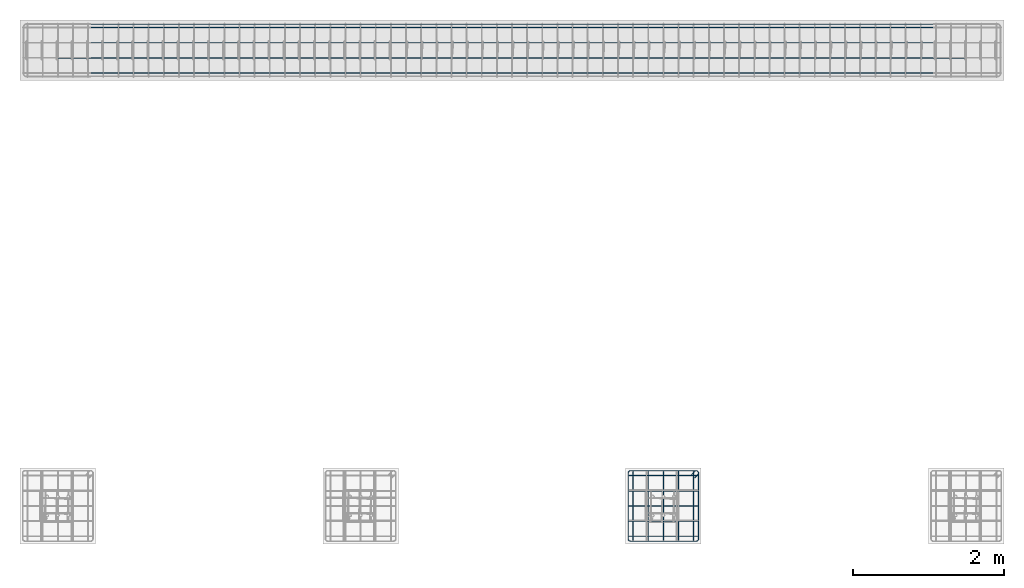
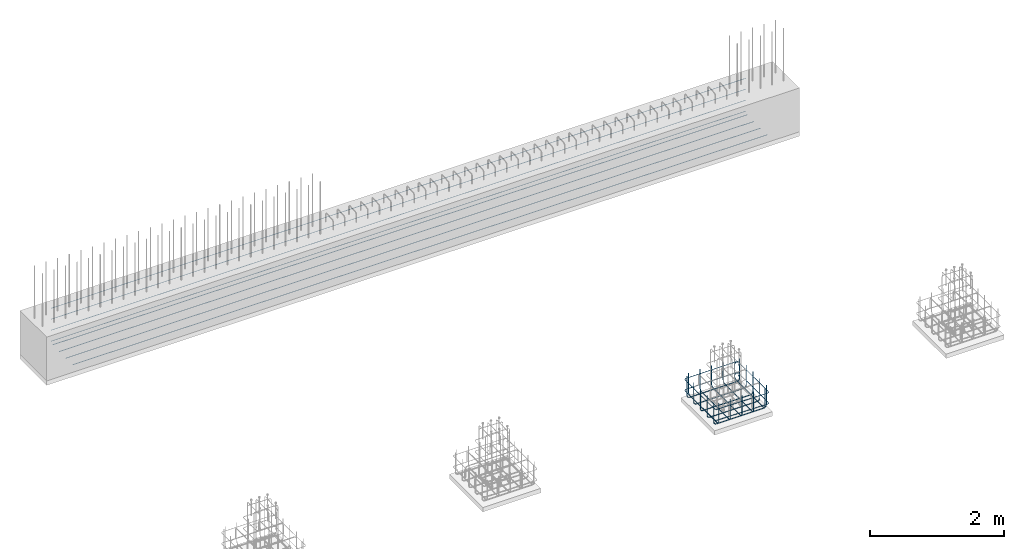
# One storey, part 7 of 12: 5 reinforcing bars.
"""IFC4X3_ADD2 building model written with IfcOpenShell, lengths in millimetres."""

from ifc_helpers import new_model, entity, si_unit, converted_unit, derived_unit, direction, frame, origin, place, context, subcontext, project, spatial, material, type_object, element, save


model = new_model("IFC4X3_ADD2")

# Units and contexts
model_context = context("Model", 3, precision=0.01, world=origin(), true_north=direction((6.123233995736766e-17, 1.0)))
plan_context = context("Plan", 3, precision=0.01, world=origin(), true_north=direction((6.123233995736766e-17, 1.0)))
body_context = subcontext(model_context, "Body", "Model", "MODEL_VIEW")
ifc_project = project(units=[si_unit("LENGTHUNIT", "METRE", prefix="MILLI"), converted_unit("PLANEANGLEUNIT", "DEGREE", entity("IfcPlaneAngleMeasure", 0.017453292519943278), si_unit("PLANEANGLEUNIT", "RADIAN"), dimensions=[0, 0, 0, 0, 0, 0, 0]), si_unit("AREAUNIT", "SQUARE_METRE"), si_unit("VOLUMEUNIT", "CUBIC_METRE"), derived_unit("THERMALTRANSMITTANCEUNIT", [(si_unit("MASSUNIT", "GRAM", prefix="KILO"), 1), (si_unit("THERMODYNAMICTEMPERATUREUNIT", "KELVIN"), -1), (si_unit("TIMEUNIT", "SECOND"), -3)]), derived_unit("USERDEFINED", [(si_unit("MASSUNIT", "GRAM", prefix="KILO"), 1), (si_unit("THERMODYNAMICTEMPERATUREUNIT", "KELVIN"), -1), (si_unit("TIMEUNIT", "SECOND"), -2)]), derived_unit("THERMALRESISTANCEUNIT", [(si_unit("MASSUNIT", "GRAM", prefix="KILO"), -1), (si_unit("TIMEUNIT", "SECOND"), 3), (si_unit("THERMODYNAMICTEMPERATUREUNIT", "KELVIN"), 1)]), si_unit("MASSUNIT", "GRAM", prefix="KILO"), derived_unit("MOMENTOFINERTIAUNIT", [(si_unit("LENGTHUNIT", "METRE"), 4)]), derived_unit("LINEARFORCEUNIT", [(si_unit("MASSUNIT", "GRAM", prefix="KILO"), 1), (si_unit("TIMEUNIT", "SECOND"), -2)]), derived_unit("WARPINGCONSTANTUNIT", [(si_unit("LENGTHUNIT", "METRE"), 6)]), si_unit("PRESSUREUNIT", "PASCAL"), derived_unit("MASSDENSITYUNIT", [(si_unit("MASSUNIT", "GRAM", prefix="KILO"), 1), (si_unit("LENGTHUNIT", "METRE"), -3)]), derived_unit("MODULUSOFELASTICITYUNIT", [(si_unit("MASSUNIT", "GRAM", prefix="KILO"), 1), (si_unit("TIMEUNIT", "SECOND"), -2), (si_unit("LENGTHUNIT", "METRE"), -1)]), derived_unit("THERMALEXPANSIONCOEFFICIENTUNIT", [(si_unit("THERMODYNAMICTEMPERATUREUNIT", "KELVIN"), -1)]), derived_unit("VAPORPERMEABILITYUNIT", [(si_unit("LENGTHUNIT", "METRE"), -1), (si_unit("TIMEUNIT", "SECOND"), 1)]), derived_unit("USERDEFINED", [(si_unit("MASSUNIT", "GRAM", prefix="KILO"), 1), (si_unit("TIMEUNIT", "SECOND"), -3), (si_unit("LENGTHUNIT", "METRE"), 3), (si_unit("ELECTRICCURRENTUNIT", "AMPERE"), -2)]), derived_unit("SPECIFICHEATCAPACITYUNIT", [(si_unit("THERMODYNAMICTEMPERATUREUNIT", "KELVIN"), -1), (si_unit("TIMEUNIT", "SECOND"), -2), (si_unit("LENGTHUNIT", "METRE"), 2)]), derived_unit("THERMALCONDUCTANCEUNIT", [(si_unit("MASSUNIT", "GRAM", prefix="KILO"), 1), (si_unit("THERMODYNAMICTEMPERATUREUNIT", "KELVIN"), -1), (si_unit("TIMEUNIT", "SECOND"), -3), (si_unit("LENGTHUNIT", "METRE"), 1)])], contexts=[model_context, plan_context])

# Site, building, storey
site_placement = place(None, origin())
site = spatial("IfcSite", under=ifc_project, at=site_placement, Name="Default", CompositionType="ELEMENT")
building_placement = place(site_placement, origin())
building = spatial("IfcBuilding", under=site, at=building_placement, Name="Complex structure", CompositionType="ELEMENT")
storey_placement = place(building_placement, frame((0.0, 0.0, -1200.0)))
storey = spatial("IfcBuildingStorey", under=building, at=storey_placement, Name="Level -03", CompositionType="ELEMENT", Elevation=-1200.0)

# Reinforcing bars
ifc_material = material(Name="Steel Rebar - B500A, B or C", Category="Unassigned")
reinforcing_bar_type_1 = type_object("IfcReinforcingBarType", Name="Rebar Bar:12mm", PredefinedType="NOTDEFINED")
reinforcing_bar_1_placement = place(storey_placement, origin())
ifc_direction_1 = entity("IfcDirection", [-1.0, 0.0, 0.0])
ifc_direction_2 = entity("IfcDirection", [-1.0, 0.0, 0.0])
ifc_direction_3 = entity("IfcDirection", [-1.0, 0.0, 0.0])
ifc_direction_4 = entity("IfcDirection", [-1.0, 0.0, 0.0])
ifc_direction_5 = entity("IfcDirection", [-1.0, 0.0, 0.0])
element("IfcReinforcingBar", 1, at=reinforcing_bar_1_placement, inside=storey, type_object=reinforcing_bar_type_1, material=ifc_material, Name="Rebar Bar:12mm : Shape 21", ObjectType="Rebar Bar:12mm", context=body_context, shape_type="AdvancedSweptSolid", body=[
    entity("IfcSweptDiskSolid", entity("IfcCompositeCurve", [entity("IfcCompositeCurveSegment", "CONTINUOUS", True, entity("IfcPolyline", [entity("IfcCartesianPoint", [-4745.221550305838, -828.8667039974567, 440.0]), entity("IfcCartesianPoint", [-4745.221550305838, -828.8667039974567, 104.0])])), entity("IfcCompositeCurveSegment", "CONTINUOUS", True, entity("IfcTrimmedCurve", entity("IfcCircle", entity("IfcAxis2Placement3D", entity("IfcCartesianPoint", [-4745.221550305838, -874.8667039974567, 104.0]), ifc_direction_1, entity("IfcDirection", [0.0, 0.0, -1.0])), 46.0), [entity("IfcParameterValue", 269.9999999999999)], [entity("IfcParameterValue", 360.00000000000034)], True, "PARAMETER")), entity("IfcCompositeCurveSegment", "CONTINUOUS", True, entity("IfcPolyline", [entity("IfcCartesianPoint", [-4745.221550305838, -874.8667039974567, 58.0]), entity("IfcCartesianPoint", [-4745.2215503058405, -1690.866703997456, 58.0])])), entity("IfcCompositeCurveSegment", "CONTINUOUS", True, entity("IfcTrimmedCurve", entity("IfcCircle", entity("IfcAxis2Placement3D", entity("IfcCartesianPoint", [-4745.2215503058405, -1690.866703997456, 104.0]), ifc_direction_1, entity("IfcDirection", [0.0, -1.0, 0.0])), 46.0), [entity("IfcParameterValue", 269.9999999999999)], [entity("IfcParameterValue", 360.00000000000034)], True, "PARAMETER")), entity("IfcCompositeCurveSegment", "CONTINUOUS", True, entity("IfcPolyline", [entity("IfcCartesianPoint", [-4745.2215503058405, -1736.8667039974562, 104.0]), entity("IfcCartesianPoint", [-4745.2215503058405, -1736.8667039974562, 440.0])]))], False), 6.0, None, 0.0, 183.00000000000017),
    entity("IfcSweptDiskSolid", entity("IfcCompositeCurve", [entity("IfcCompositeCurveSegment", "CONTINUOUS", True, entity("IfcPolyline", [entity("IfcCartesianPoint", [-4945.221550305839, -828.8667039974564, 440.0]), entity("IfcCartesianPoint", [-4945.221550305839, -828.8667039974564, 104.0])])), entity("IfcCompositeCurveSegment", "CONTINUOUS", True, entity("IfcTrimmedCurve", entity("IfcCircle", entity("IfcAxis2Placement3D", entity("IfcCartesianPoint", [-4945.221550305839, -874.8667039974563, 104.0]), ifc_direction_2, entity("IfcDirection", [0.0, 0.0, -1.0])), 46.0), [entity("IfcParameterValue", 269.9999999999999)], [entity("IfcParameterValue", 360.00000000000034)], True, "PARAMETER")), entity("IfcCompositeCurveSegment", "CONTINUOUS", True, entity("IfcPolyline", [entity("IfcCartesianPoint", [-4945.221550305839, -874.8667039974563, 58.0]), entity("IfcCartesianPoint", [-4945.2215503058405, -1690.8667039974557, 58.0])])), entity("IfcCompositeCurveSegment", "CONTINUOUS", True, entity("IfcTrimmedCurve", entity("IfcCircle", entity("IfcAxis2Placement3D", entity("IfcCartesianPoint", [-4945.2215503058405, -1690.8667039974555, 104.0]), ifc_direction_2, entity("IfcDirection", [0.0, -1.0, 0.0])), 46.0), [entity("IfcParameterValue", 269.9999999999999)], [entity("IfcParameterValue", 360.00000000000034)], True, "PARAMETER")), entity("IfcCompositeCurveSegment", "CONTINUOUS", True, entity("IfcPolyline", [entity("IfcCartesianPoint", [-4945.2215503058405, -1736.8667039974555, 104.0]), entity("IfcCartesianPoint", [-4945.2215503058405, -1736.8667039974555, 440.0])]))], False), 6.0, None, 0.0, 183.00000000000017),
    entity("IfcSweptDiskSolid", entity("IfcCompositeCurve", [entity("IfcCompositeCurveSegment", "CONTINUOUS", True, entity("IfcPolyline", [entity("IfcCartesianPoint", [-5145.221550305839, -828.8667039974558, 440.0]), entity("IfcCartesianPoint", [-5145.221550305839, -828.8667039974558, 104.0])])), entity("IfcCompositeCurveSegment", "CONTINUOUS", True, entity("IfcTrimmedCurve", entity("IfcCircle", entity("IfcAxis2Placement3D", entity("IfcCartesianPoint", [-5145.221550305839, -874.8667039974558, 104.0]), ifc_direction_3, entity("IfcDirection", [0.0, 0.0, -1.0])), 46.0), [entity("IfcParameterValue", 269.9999999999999)], [entity("IfcParameterValue", 360.00000000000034)], True, "PARAMETER")), entity("IfcCompositeCurveSegment", "CONTINUOUS", True, entity("IfcPolyline", [entity("IfcCartesianPoint", [-5145.221550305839, -874.8667039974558, 58.0]), entity("IfcCartesianPoint", [-5145.2215503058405, -1690.8667039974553, 58.0])])), entity("IfcCompositeCurveSegment", "CONTINUOUS", True, entity("IfcTrimmedCurve", entity("IfcCircle", entity("IfcAxis2Placement3D", entity("IfcCartesianPoint", [-5145.2215503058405, -1690.8667039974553, 104.0]), ifc_direction_3, entity("IfcDirection", [0.0, -1.0, 0.0])), 46.0), [entity("IfcParameterValue", 269.9999999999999)], [entity("IfcParameterValue", 360.00000000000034)], True, "PARAMETER")), entity("IfcCompositeCurveSegment", "CONTINUOUS", True, entity("IfcPolyline", [entity("IfcCartesianPoint", [-5145.2215503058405, -1736.8667039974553, 104.0]), entity("IfcCartesianPoint", [-5145.2215503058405, -1736.8667039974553, 440.0])]))], False), 6.0, None, 0.0, 183.00000000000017),
    entity("IfcSweptDiskSolid", entity("IfcCompositeCurve", [entity("IfcCompositeCurveSegment", "CONTINUOUS", True, entity("IfcPolyline", [entity("IfcCartesianPoint", [-5345.221550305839, -828.8667039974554, 440.0]), entity("IfcCartesianPoint", [-5345.221550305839, -828.8667039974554, 104.0])])), entity("IfcCompositeCurveSegment", "CONTINUOUS", True, entity("IfcTrimmedCurve", entity("IfcCircle", entity("IfcAxis2Placement3D", entity("IfcCartesianPoint", [-5345.221550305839, -874.8667039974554, 104.0]), ifc_direction_4, entity("IfcDirection", [0.0, 0.0, -1.0])), 46.0), [entity("IfcParameterValue", 269.9999999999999)], [entity("IfcParameterValue", 360.00000000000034)], True, "PARAMETER")), entity("IfcCompositeCurveSegment", "CONTINUOUS", True, entity("IfcPolyline", [entity("IfcCartesianPoint", [-5345.221550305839, -874.8667039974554, 58.0]), entity("IfcCartesianPoint", [-5345.2215503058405, -1690.8667039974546, 58.0])])), entity("IfcCompositeCurveSegment", "CONTINUOUS", True, entity("IfcTrimmedCurve", entity("IfcCircle", entity("IfcAxis2Placement3D", entity("IfcCartesianPoint", [-5345.2215503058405, -1690.8667039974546, 104.0]), ifc_direction_4, entity("IfcDirection", [0.0, -1.0, 0.0])), 46.0), [entity("IfcParameterValue", 269.9999999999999)], [entity("IfcParameterValue", 360.00000000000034)], True, "PARAMETER")), entity("IfcCompositeCurveSegment", "CONTINUOUS", True, entity("IfcPolyline", [entity("IfcCartesianPoint", [-5345.2215503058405, -1736.8667039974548, 104.0]), entity("IfcCartesianPoint", [-5345.2215503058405, -1736.8667039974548, 440.0])]))], False), 6.0, None, 0.0, 183.00000000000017),
    entity("IfcSweptDiskSolid", entity("IfcCompositeCurve", [entity("IfcCompositeCurveSegment", "CONTINUOUS", True, entity("IfcPolyline", [entity("IfcCartesianPoint", [-5545.221550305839, -828.8667039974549, 440.0]), entity("IfcCartesianPoint", [-5545.221550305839, -828.8667039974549, 104.0])])), entity("IfcCompositeCurveSegment", "CONTINUOUS", True, entity("IfcTrimmedCurve", entity("IfcCircle", entity("IfcAxis2Placement3D", entity("IfcCartesianPoint", [-5545.221550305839, -874.8667039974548, 104.0]), ifc_direction_5, entity("IfcDirection", [0.0, 0.0, -1.0])), 46.0), [entity("IfcParameterValue", 269.9999999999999)], [entity("IfcParameterValue", 360.00000000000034)], True, "PARAMETER")), entity("IfcCompositeCurveSegment", "CONTINUOUS", True, entity("IfcPolyline", [entity("IfcCartesianPoint", [-5545.221550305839, -874.8667039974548, 58.0]), entity("IfcCartesianPoint", [-5545.2215503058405, -1690.8667039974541, 58.0])])), entity("IfcCompositeCurveSegment", "CONTINUOUS", True, entity("IfcTrimmedCurve", entity("IfcCircle", entity("IfcAxis2Placement3D", entity("IfcCartesianPoint", [-5545.2215503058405, -1690.8667039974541, 104.0]), ifc_direction_5, entity("IfcDirection", [0.0, -1.0, 0.0])), 46.0), [entity("IfcParameterValue", 269.9999999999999)], [entity("IfcParameterValue", 360.00000000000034)], True, "PARAMETER")), entity("IfcCompositeCurveSegment", "CONTINUOUS", True, entity("IfcPolyline", [entity("IfcCartesianPoint", [-5545.2215503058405, -1736.8667039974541, 104.0]), entity("IfcCartesianPoint", [-5545.2215503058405, -1736.8667039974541, 440.0])]))], False), 6.0, None, 0.0, 183.00000000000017),
])
reinforcing_bar_2_placement = place(storey_placement, origin())
ifc_direction_6 = entity("IfcDirection", [0.0, -1.0, 0.0])
ifc_direction_7 = entity("IfcDirection", [0.0, -1.0, 0.0])
ifc_direction_8 = entity("IfcDirection", [0.0, -1.0, 0.0])
ifc_direction_9 = entity("IfcDirection", [0.0, -1.0, 0.0])
ifc_direction_10 = entity("IfcDirection", [0.0, -1.0, 0.0])
element("IfcReinforcingBar", 2, at=reinforcing_bar_2_placement, inside=storey, type_object=reinforcing_bar_type_1, material=ifc_material, Name="Rebar Bar:12mm : Shape 21", ObjectType="Rebar Bar:12mm", context=body_context, shape_type="AdvancedSweptSolid", body=[
    entity("IfcSweptDiskSolid", entity("IfcCompositeCurve", [entity("IfcCompositeCurveSegment", "CONTINUOUS", True, entity("IfcPolyline", [entity("IfcCartesianPoint", [-5598.871550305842, -882.8667039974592, 440.0]), entity("IfcCartesianPoint", [-5598.871550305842, -882.8667039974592, 82.0])])), entity("IfcCompositeCurveSegment", "CONTINUOUS", True, entity("IfcTrimmedCurve", entity("IfcCircle", entity("IfcAxis2Placement3D", entity("IfcCartesianPoint", [-5552.871550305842, -882.8667039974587, 82.0]), ifc_direction_6, entity("IfcDirection", [0.0, 0.0, -1.0])), 46.0), [entity("IfcParameterValue", 269.9999999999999)], [entity("IfcParameterValue", 360.00000000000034)], True, "PARAMETER")), entity("IfcCompositeCurveSegment", "CONTINUOUS", True, entity("IfcPolyline", [entity("IfcCartesianPoint", [-5552.871550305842, -882.8667039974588, 36.0]), entity("IfcCartesianPoint", [-4737.571550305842, -882.8667039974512, 36.0])])), entity("IfcCompositeCurveSegment", "CONTINUOUS", True, entity("IfcTrimmedCurve", entity("IfcCircle", entity("IfcAxis2Placement3D", entity("IfcCartesianPoint", [-4737.571550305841, -882.8667039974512, 82.0]), ifc_direction_6, entity("IfcDirection", [1.0, 0.0, 0.0])), 46.0), [entity("IfcParameterValue", 269.9999999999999)], [entity("IfcParameterValue", 360.00000000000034)], True, "PARAMETER")), entity("IfcCompositeCurveSegment", "CONTINUOUS", True, entity("IfcPolyline", [entity("IfcCartesianPoint", [-4691.571550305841, -882.8667039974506, 82.0]), entity("IfcCartesianPoint", [-4691.571550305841, -882.8667039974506, 440.0])]))], False), 6.0, None, 0.0, 183.00000000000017),
    entity("IfcSweptDiskSolid", entity("IfcCompositeCurve", [entity("IfcCompositeCurveSegment", "CONTINUOUS", True, entity("IfcPolyline", [entity("IfcCartesianPoint", [-5598.87155030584, -1082.8667039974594, 440.0]), entity("IfcCartesianPoint", [-5598.87155030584, -1082.8667039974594, 82.0])])), entity("IfcCompositeCurveSegment", "CONTINUOUS", True, entity("IfcTrimmedCurve", entity("IfcCircle", entity("IfcAxis2Placement3D", entity("IfcCartesianPoint", [-5552.87155030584, -1082.8667039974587, 82.0]), ifc_direction_7, entity("IfcDirection", [0.0, 0.0, -1.0])), 46.0), [entity("IfcParameterValue", 269.9999999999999)], [entity("IfcParameterValue", 360.00000000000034)], True, "PARAMETER")), entity("IfcCompositeCurveSegment", "CONTINUOUS", True, entity("IfcPolyline", [entity("IfcCartesianPoint", [-5552.87155030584, -1082.866703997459, 36.0]), entity("IfcCartesianPoint", [-4737.571550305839, -1082.8667039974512, 36.0])])), entity("IfcCompositeCurveSegment", "CONTINUOUS", True, entity("IfcTrimmedCurve", entity("IfcCircle", entity("IfcAxis2Placement3D", entity("IfcCartesianPoint", [-4737.571550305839, -1082.8667039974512, 82.0]), ifc_direction_7, entity("IfcDirection", [1.0, 0.0, 0.0])), 46.0), [entity("IfcParameterValue", 269.9999999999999)], [entity("IfcParameterValue", 360.00000000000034)], True, "PARAMETER")), entity("IfcCompositeCurveSegment", "CONTINUOUS", True, entity("IfcPolyline", [entity("IfcCartesianPoint", [-4691.57155030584, -1082.8667039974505, 82.0]), entity("IfcCartesianPoint", [-4691.57155030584, -1082.8667039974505, 440.0])]))], False), 6.0, None, 0.0, 183.00000000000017),
    entity("IfcSweptDiskSolid", entity("IfcCompositeCurve", [entity("IfcCompositeCurveSegment", "CONTINUOUS", True, entity("IfcPolyline", [entity("IfcCartesianPoint", [-5598.871550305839, -1282.8667039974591, 440.0]), entity("IfcCartesianPoint", [-5598.871550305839, -1282.8667039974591, 82.0])])), entity("IfcCompositeCurveSegment", "CONTINUOUS", True, entity("IfcTrimmedCurve", entity("IfcCircle", entity("IfcAxis2Placement3D", entity("IfcCartesianPoint", [-5552.871550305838, -1282.8667039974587, 82.0]), ifc_direction_8, entity("IfcDirection", [0.0, 0.0, -1.0])), 46.0), [entity("IfcParameterValue", 269.9999999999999)], [entity("IfcParameterValue", 360.00000000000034)], True, "PARAMETER")), entity("IfcCompositeCurveSegment", "CONTINUOUS", True, entity("IfcPolyline", [entity("IfcCartesianPoint", [-5552.871550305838, -1282.8667039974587, 36.0]), entity("IfcCartesianPoint", [-4737.571550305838, -1282.866703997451, 36.0])])), entity("IfcCompositeCurveSegment", "CONTINUOUS", True, entity("IfcTrimmedCurve", entity("IfcCircle", entity("IfcAxis2Placement3D", entity("IfcCartesianPoint", [-4737.571550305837, -1282.866703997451, 82.0]), ifc_direction_8, entity("IfcDirection", [1.0, 0.0, 0.0])), 46.0), [entity("IfcParameterValue", 269.9999999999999)], [entity("IfcParameterValue", 360.00000000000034)], True, "PARAMETER")), entity("IfcCompositeCurveSegment", "CONTINUOUS", True, entity("IfcPolyline", [entity("IfcCartesianPoint", [-4691.571550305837, -1282.8667039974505, 82.0]), entity("IfcCartesianPoint", [-4691.571550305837, -1282.8667039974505, 440.0])]))], False), 6.0, None, 0.0, 183.00000000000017),
    entity("IfcSweptDiskSolid", entity("IfcCompositeCurve", [entity("IfcCompositeCurveSegment", "CONTINUOUS", True, entity("IfcPolyline", [entity("IfcCartesianPoint", [-5598.8715503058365, -1482.8667039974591, 440.0]), entity("IfcCartesianPoint", [-5598.8715503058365, -1482.8667039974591, 82.0])])), entity("IfcCompositeCurveSegment", "CONTINUOUS", True, entity("IfcTrimmedCurve", entity("IfcCircle", entity("IfcAxis2Placement3D", entity("IfcCartesianPoint", [-5552.8715503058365, -1482.8667039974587, 82.0]), ifc_direction_9, entity("IfcDirection", [0.0, 0.0, -1.0])), 46.0), [entity("IfcParameterValue", 269.9999999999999)], [entity("IfcParameterValue", 360.00000000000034)], True, "PARAMETER")), entity("IfcCompositeCurveSegment", "CONTINUOUS", True, entity("IfcPolyline", [entity("IfcCartesianPoint", [-5552.8715503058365, -1482.8667039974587, 36.0]), entity("IfcCartesianPoint", [-4737.571550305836, -1482.866703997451, 36.0])])), entity("IfcCompositeCurveSegment", "CONTINUOUS", True, entity("IfcTrimmedCurve", entity("IfcCircle", entity("IfcAxis2Placement3D", entity("IfcCartesianPoint", [-4737.571550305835, -1482.866703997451, 82.0]), ifc_direction_9, entity("IfcDirection", [1.0, 0.0, 0.0])), 46.0), [entity("IfcParameterValue", 269.9999999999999)], [entity("IfcParameterValue", 360.00000000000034)], True, "PARAMETER")), entity("IfcCompositeCurveSegment", "CONTINUOUS", True, entity("IfcPolyline", [entity("IfcCartesianPoint", [-4691.571550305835, -1482.8667039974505, 82.0]), entity("IfcCartesianPoint", [-4691.571550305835, -1482.8667039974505, 440.0])]))], False), 6.0, None, 0.0, 183.00000000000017),
    entity("IfcSweptDiskSolid", entity("IfcCompositeCurve", [entity("IfcCompositeCurveSegment", "CONTINUOUS", True, entity("IfcPolyline", [entity("IfcCartesianPoint", [-5598.871550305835, -1682.8667039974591, 440.0]), entity("IfcCartesianPoint", [-5598.871550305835, -1682.8667039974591, 82.0])])), entity("IfcCompositeCurveSegment", "CONTINUOUS", True, entity("IfcTrimmedCurve", entity("IfcCircle", entity("IfcAxis2Placement3D", entity("IfcCartesianPoint", [-5552.871550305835, -1682.8667039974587, 82.0]), ifc_direction_10, entity("IfcDirection", [0.0, 0.0, -1.0])), 46.0), [entity("IfcParameterValue", 269.9999999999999)], [entity("IfcParameterValue", 360.00000000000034)], True, "PARAMETER")), entity("IfcCompositeCurveSegment", "CONTINUOUS", True, entity("IfcPolyline", [entity("IfcCartesianPoint", [-5552.871550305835, -1682.8667039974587, 36.0]), entity("IfcCartesianPoint", [-4737.571550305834, -1682.866703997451, 36.0])])), entity("IfcCompositeCurveSegment", "CONTINUOUS", True, entity("IfcTrimmedCurve", entity("IfcCircle", entity("IfcAxis2Placement3D", entity("IfcCartesianPoint", [-4737.571550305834, -1682.866703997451, 82.0]), ifc_direction_10, entity("IfcDirection", [1.0, 0.0, 0.0])), 46.0), [entity("IfcParameterValue", 269.9999999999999)], [entity("IfcParameterValue", 360.00000000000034)], True, "PARAMETER")), entity("IfcCompositeCurveSegment", "CONTINUOUS", True, entity("IfcPolyline", [entity("IfcCartesianPoint", [-4691.571550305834, -1682.8667039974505, 82.0]), entity("IfcCartesianPoint", [-4691.571550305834, -1682.8667039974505, 440.0])]))], False), 6.0, None, 0.0, 183.00000000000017),
])
reinforcing_bar_3_placement = place(storey_placement, origin())
element("IfcReinforcingBar", 3, at=reinforcing_bar_3_placement, inside=storey, type_object=reinforcing_bar_type_1, material=ifc_material, Name="Rebar Bar:12mm : Shape 00", ObjectType="Rebar Bar:12mm", context=body_context, shape_type="AdvancedSweptSolid", body=[
    entity("IfcSweptDiskSolid", entity("IfcCompositeCurve", [entity("IfcCompositeCurveSegment", "CONTINUOUS", True, entity("IfcPolyline", [entity("IfcCartesianPoint", [-13141.260887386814, 4437.133296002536, 58.34999999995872]), entity("IfcCartesianPoint", [-1141.2608873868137, 4437.133296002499, 58.34999999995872])]))], False), 6.0, None, 0.0, 1.0),
    entity("IfcSweptDiskSolid", entity("IfcCompositeCurve", [entity("IfcCompositeCurveSegment", "CONTINUOUS", True, entity("IfcPolyline", [entity("IfcCartesianPoint", [-13141.260887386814, 4637.133296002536, 58.34999999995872]), entity("IfcCartesianPoint", [-1141.2608873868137, 4637.133296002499, 58.34999999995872])]))], False), 6.0, None, 0.0, 1.0),
    entity("IfcSweptDiskSolid", entity("IfcCompositeCurve", [entity("IfcCompositeCurveSegment", "CONTINUOUS", True, entity("IfcPolyline", [entity("IfcCartesianPoint", [-13141.260887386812, 4837.133296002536, 58.34999999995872]), entity("IfcCartesianPoint", [-1141.2608873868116, 4837.133296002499, 58.34999999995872])]))], False), 6.0, None, 0.0, 1.0),
    entity("IfcSweptDiskSolid", entity("IfcCompositeCurve", [entity("IfcCompositeCurveSegment", "CONTINUOUS", True, entity("IfcPolyline", [entity("IfcCartesianPoint", [-13141.260887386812, 5037.133296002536, 58.34999999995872]), entity("IfcCartesianPoint", [-1141.2608873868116, 5037.1332960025, 58.34999999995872])]))], False), 6.0, None, 0.0, 1.0),
])
reinforcing_bar_type_2 = type_object("IfcReinforcingBarType", Name="Rebar Bar:10mm", PredefinedType="NOTDEFINED")
reinforcing_bar_4_placement = place(storey_placement, origin())
ifc_direction_11 = entity("IfcDirection", [0.0, 0.0, 1.0])
ifc_direction_12 = entity("IfcDirection", [0.0, 0.0, 1.0])
element("IfcReinforcingBar", 4, at=reinforcing_bar_4_placement, inside=storey, type_object=reinforcing_bar_type_2, material=ifc_material, Name="Rebar Bar:10mm : Shape 52", ObjectType="Rebar Bar:10mm", context=body_context, shape_type="AdvancedSweptSolid", body=[
    entity("IfcSweptDiskSolid", entity("IfcCompositeCurve", [entity("IfcCompositeCurveSegment", "CONTINUOUS", True, entity("IfcPolyline", [entity("IfcCartesianPoint", [-4731.784753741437, -911.5063143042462, 150.0]), entity("IfcCartesianPoint", [-4689.3583468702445, -869.0799074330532, 150.0])])), entity("IfcCompositeCurveSegment", "CONTINUOUS", True, entity("IfcTrimmedCurve", entity("IfcCircle", entity("IfcAxis2Placement3D", entity("IfcCartesianPoint", [-4710.571550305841, -847.866703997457, 150.0]), ifc_direction_11, entity("IfcDirection", [0.7071067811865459, 0.7071067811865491, 0.0])), 30.000000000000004), [entity("IfcParameterValue", 269.9999999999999)], [entity("IfcParameterValue", 44.99999999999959)], True, "PARAMETER")), entity("IfcCompositeCurveSegment", "CONTINUOUS", True, entity("IfcPolyline", [entity("IfcCartesianPoint", [-4710.571550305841, -817.8667039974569, 150.0]), entity("IfcCartesianPoint", [-5579.87155030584, -817.8667039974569, 150.0])])), entity("IfcCompositeCurveSegment", "CONTINUOUS", True, entity("IfcTrimmedCurve", entity("IfcCircle", entity("IfcAxis2Placement3D", entity("IfcCartesianPoint", [-5579.87155030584, -847.866703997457, 150.0]), ifc_direction_11, entity("IfcDirection", [-1.0, 0.0, 0.0])), 30.000000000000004), [entity("IfcParameterValue", 269.9999999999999)], [entity("IfcParameterValue", 360.00000000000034)], True, "PARAMETER")), entity("IfcCompositeCurveSegment", "CONTINUOUS", True, entity("IfcPolyline", [entity("IfcCartesianPoint", [-5609.871550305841, -847.8667039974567, 150.0]), entity("IfcCartesianPoint", [-5609.871550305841, -1717.8667039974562, 150.0])])), entity("IfcCompositeCurveSegment", "CONTINUOUS", True, entity("IfcTrimmedCurve", entity("IfcCircle", entity("IfcAxis2Placement3D", entity("IfcCartesianPoint", [-5579.8732870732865, -1717.8667039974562, 149.67719505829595]), entity("IfcDirection", [0.010760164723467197, 0.0, 0.9999421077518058]), entity("IfcDirection", [0.0, -1.0, 0.0])), 30.000000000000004), [entity("IfcParameterValue", 269.9999999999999)], [entity("IfcParameterValue", 360.00000000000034)], True, "PARAMETER")), entity("IfcCompositeCurveSegment", "CONTINUOUS", True, entity("IfcPolyline", [entity("IfcCartesianPoint", [-5579.8732870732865, -1747.866703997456, 149.67719505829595]), entity("IfcCartesianPoint", [-4710.5698135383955, -1747.866703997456, 140.32280494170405])])), entity("IfcCompositeCurveSegment", "CONTINUOUS", True, entity("IfcTrimmedCurve", entity("IfcCircle", entity("IfcAxis2Placement3D", entity("IfcCartesianPoint", [-4710.5698135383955, -1717.8667039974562, 140.32280494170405]), entity("IfcDirection", [0.010760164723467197, 0.0, 0.9999421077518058]), entity("IfcDirection", [0.9999421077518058, 0.0, -0.010760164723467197])), 30.000000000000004), [entity("IfcParameterValue", 269.9999999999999)], [entity("IfcParameterValue", 360.00000000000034)], True, "PARAMETER")), entity("IfcCompositeCurveSegment", "CONTINUOUS", True, entity("IfcPolyline", [entity("IfcCartesianPoint", [-4680.571550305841, -1717.8667039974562, 140.0]), entity("IfcCartesianPoint", [-4680.571550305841, -847.8667039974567, 140.0])])), entity("IfcCompositeCurveSegment", "CONTINUOUS", True, entity("IfcTrimmedCurve", entity("IfcCircle", entity("IfcAxis2Placement3D", entity("IfcCartesianPoint", [-4710.571550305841, -847.8667039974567, 140.0]), ifc_direction_11, entity("IfcDirection", [0.0, 1.0, 0.0])), 30.000000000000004), [entity("IfcParameterValue", 269.9999999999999)], [entity("IfcParameterValue", 44.99999999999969)], True, "PARAMETER")), entity("IfcCompositeCurveSegment", "CONTINUOUS", True, entity("IfcPolyline", [entity("IfcCartesianPoint", [-4731.784753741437, -826.6535005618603, 140.0]), entity("IfcCartesianPoint", [-4774.21116061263, -869.079907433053, 140.0])]))], False), 5.0, None, 0.0, 546.0000000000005),
    entity("IfcSweptDiskSolid", entity("IfcCompositeCurve", [entity("IfcCompositeCurveSegment", "CONTINUOUS", True, entity("IfcPolyline", [entity("IfcCartesianPoint", [-4731.784753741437, -911.5063143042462, 350.0]), entity("IfcCartesianPoint", [-4689.3583468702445, -869.0799074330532, 350.0])])), entity("IfcCompositeCurveSegment", "CONTINUOUS", True, entity("IfcTrimmedCurve", entity("IfcCircle", entity("IfcAxis2Placement3D", entity("IfcCartesianPoint", [-4710.571550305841, -847.866703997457, 350.0]), ifc_direction_12, entity("IfcDirection", [0.7071067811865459, 0.7071067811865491, 0.0])), 30.000000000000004), [entity("IfcParameterValue", 269.9999999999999)], [entity("IfcParameterValue", 44.99999999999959)], True, "PARAMETER")), entity("IfcCompositeCurveSegment", "CONTINUOUS", True, entity("IfcPolyline", [entity("IfcCartesianPoint", [-4710.571550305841, -817.8667039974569, 350.0]), entity("IfcCartesianPoint", [-5579.87155030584, -817.8667039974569, 350.0])])), entity("IfcCompositeCurveSegment", "CONTINUOUS", True, entity("IfcTrimmedCurve", entity("IfcCircle", entity("IfcAxis2Placement3D", entity("IfcCartesianPoint", [-5579.87155030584, -847.866703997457, 350.0]), ifc_direction_12, entity("IfcDirection", [-1.0, 0.0, 0.0])), 30.000000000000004), [entity("IfcParameterValue", 269.9999999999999)], [entity("IfcParameterValue", 360.00000000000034)], True, "PARAMETER")), entity("IfcCompositeCurveSegment", "CONTINUOUS", True, entity("IfcPolyline", [entity("IfcCartesianPoint", [-5609.871550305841, -847.8667039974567, 350.0]), entity("IfcCartesianPoint", [-5609.871550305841, -1717.8667039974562, 350.0])])), entity("IfcCompositeCurveSegment", "CONTINUOUS", True, entity("IfcTrimmedCurve", entity("IfcCircle", entity("IfcAxis2Placement3D", entity("IfcCartesianPoint", [-5579.8732870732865, -1717.8667039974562, 349.677195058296]), entity("IfcDirection", [0.010760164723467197, 0.0, 0.9999421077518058]), entity("IfcDirection", [0.0, -1.0, 0.0])), 30.000000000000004), [entity("IfcParameterValue", 269.9999999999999)], [entity("IfcParameterValue", 360.00000000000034)], True, "PARAMETER")), entity("IfcCompositeCurveSegment", "CONTINUOUS", True, entity("IfcPolyline", [entity("IfcCartesianPoint", [-5579.8732870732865, -1747.866703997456, 349.677195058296]), entity("IfcCartesianPoint", [-4710.5698135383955, -1747.866703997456, 340.3228049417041])])), entity("IfcCompositeCurveSegment", "CONTINUOUS", True, entity("IfcTrimmedCurve", entity("IfcCircle", entity("IfcAxis2Placement3D", entity("IfcCartesianPoint", [-4710.5698135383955, -1717.8667039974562, 340.3228049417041]), entity("IfcDirection", [0.010760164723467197, 0.0, 0.9999421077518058]), entity("IfcDirection", [0.9999421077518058, 0.0, -0.010760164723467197])), 30.000000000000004), [entity("IfcParameterValue", 269.9999999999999)], [entity("IfcParameterValue", 360.00000000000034)], True, "PARAMETER")), entity("IfcCompositeCurveSegment", "CONTINUOUS", True, entity("IfcPolyline", [entity("IfcCartesianPoint", [-4680.571550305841, -1717.8667039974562, 340.0]), entity("IfcCartesianPoint", [-4680.571550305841, -847.8667039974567, 340.0])])), entity("IfcCompositeCurveSegment", "CONTINUOUS", True, entity("IfcTrimmedCurve", entity("IfcCircle", entity("IfcAxis2Placement3D", entity("IfcCartesianPoint", [-4710.571550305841, -847.8667039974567, 340.0]), ifc_direction_12, entity("IfcDirection", [0.0, 1.0, 0.0])), 30.000000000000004), [entity("IfcParameterValue", 269.9999999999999)], [entity("IfcParameterValue", 44.99999999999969)], True, "PARAMETER")), entity("IfcCompositeCurveSegment", "CONTINUOUS", True, entity("IfcPolyline", [entity("IfcCartesianPoint", [-4731.784753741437, -826.6535005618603, 340.0]), entity("IfcCartesianPoint", [-4774.21116061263, -869.079907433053, 340.0])]))], False), 5.0, None, 0.0, 546.0000000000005),
])
reinforcing_bar_5_placement = place(storey_placement, origin())
element("IfcReinforcingBar", 5, at=reinforcing_bar_5_placement, inside=storey, type_object=reinforcing_bar_type_2, material=ifc_material, Name="Rebar Bar:10mm : Shape 00", ObjectType="Rebar Bar:10mm", context=body_context, shape_type="AdvancedSweptSolid", body=[
    entity("IfcSweptDiskSolid", entity("IfcCompositeCurve", [entity("IfcCompositeCurveSegment", "CONTINUOUS", True, entity("IfcPolyline", [entity("IfcCartesianPoint", [-13141.26088738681, 5080.133296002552, 100.0]), entity("IfcCartesianPoint", [-1141.2608873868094, 5080.133296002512, 100.0])]))], False), 5.0, None, 0.0, 1.0),
    entity("IfcSweptDiskSolid", entity("IfcCompositeCurve", [entity("IfcCompositeCurveSegment", "CONTINUOUS", True, entity("IfcPolyline", [entity("IfcCartesianPoint", [-13141.26088738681, 5080.133296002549, 300.0]), entity("IfcCartesianPoint", [-1141.2608873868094, 5080.133296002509, 300.0])]))], False), 5.0, None, 0.0, 1.0),
    entity("IfcSweptDiskSolid", entity("IfcCompositeCurve", [entity("IfcCompositeCurveSegment", "CONTINUOUS", True, entity("IfcPolyline", [entity("IfcCartesianPoint", [-13141.26088738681, 5080.133296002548, 500.0]), entity("IfcCartesianPoint", [-1141.2608873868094, 5080.133296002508, 500.0])]))], False), 5.0, None, 0.0, 1.0),
    entity("IfcSweptDiskSolid", entity("IfcCompositeCurve", [entity("IfcCompositeCurveSegment", "CONTINUOUS", True, entity("IfcPolyline", [entity("IfcCartesianPoint", [-13141.26088738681, 5080.133296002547, 700.0]), entity("IfcCartesianPoint", [-1141.2608873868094, 5080.1332960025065, 700.0])]))], False), 5.0, None, 0.0, 1.0),
])

save(model, "model.ifc")
